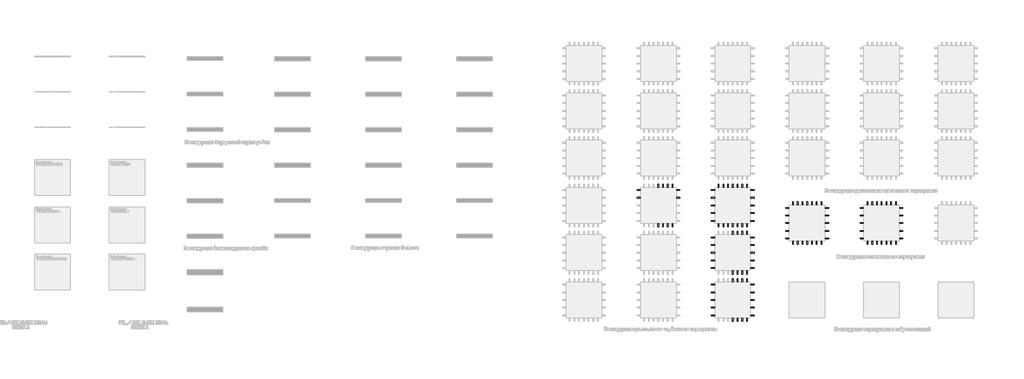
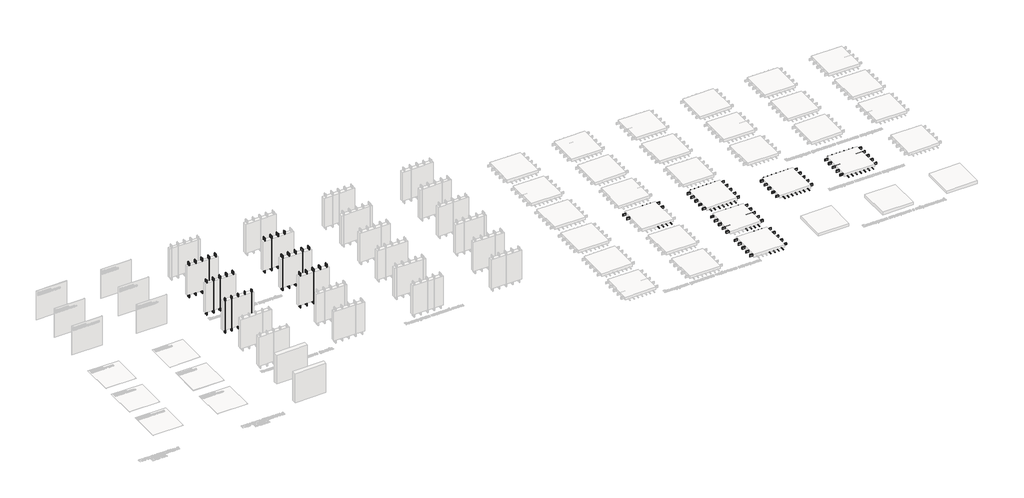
# One storey, part 3 of 42: 167 beams.
"""IFC4 building model written with IfcOpenShell, lengths in millimetres."""

from ifc_helpers import new_model, si_unit, origin, place, context, project, spatial, transform, mapped, element, save
from components import beam_10aa4ee0, beam_54a566a4, beam_d9e12bf5, beam_29c01288, beam_5dea3e8d

model = new_model("IFC4")

# Units and contexts
model_context = context("Model", 3, world=origin())
ifc_project = project(units=[si_unit("LENGTHUNIT", "METRE", prefix="MILLI")], contexts=[model_context])

# Site, building, storey
site = spatial("IfcSite", under=ifc_project)
building = spatial("IfcBuilding", under=site)
storey = spatial("IfcBuildingStorey", under=building, Name="Этаж 01", Elevation=0.0)

# Beams
placement = place(None, origin())
beam_shape = beam_10aa4ee0(model_context)
element("IfcBeam", 1, ObjectType="Деревянный брус : 50х150", at=placement, inside=storey, context=model_context, shape_type="MappedRepresentation", body=[
    mapped(beam_shape, transform((4863.2333353, -27996.8929597, 1500.0), x_axis=(0.0, 0.0, -1.0), y_axis=(1.0, 0.0, 0.0), z_axis=(0.0, -1.0, 0.0))),
])
element("IfcBeam", 2, ObjectType="Деревянный брус : 50х150", at=placement, inside=storey, context=model_context, shape_type="MappedRepresentation", body=[
    mapped(beam_shape, transform((4213.2333353, -27996.8929597, 1500.0), x_axis=(0.0, 0.0, -1.0), y_axis=(1.0, 0.0, 0.0), z_axis=(0.0, -1.0, 0.0))),
])
element("IfcBeam", 3, ObjectType="Деревянный брус : 50х150", at=placement, inside=storey, context=model_context, shape_type="MappedRepresentation", body=[
    mapped(beam_shape, transform((3563.2333353, -27996.8929597, 1500.0), x_axis=(0.0, 0.0, -1.0), y_axis=(1.0, 0.0, 0.0), z_axis=(0.0, -1.0, 0.0))),
])
element("IfcBeam", 4, ObjectType="Деревянный брус : 50х150", at=placement, inside=storey, context=model_context, shape_type="MappedRepresentation", body=[
    mapped(beam_shape, transform((2913.2333353, -27996.8929597, 1500.0), x_axis=(0.0, 0.0, -1.0), y_axis=(1.0, 0.0, 0.0), z_axis=(0.0, -1.0, 0.0))),
])
element("IfcBeam", 5, ObjectType="Деревянный брус : 50х150", at=placement, inside=storey, context=model_context, shape_type="MappedRepresentation", body=[
    mapped(beam_shape, transform((2263.2333353, -27996.8929597, 1500.0), x_axis=(0.0, 0.0, -1.0), y_axis=(1.0, 0.0, 0.0), z_axis=(0.0, -1.0, 0.0))),
])
element("IfcBeam", 6, ObjectType="Деревянный брус : 50х150", at=placement, inside=storey, context=model_context, shape_type="MappedRepresentation", body=[
    mapped(beam_shape, transform((4863.2333353, -24996.8929597, 1500.0), x_axis=(0.0, 0.0, -1.0), y_axis=(1.0, 0.0, 0.0), z_axis=(0.0, -1.0, 0.0))),
])
element("IfcBeam", 7, ObjectType="Деревянный брус : 50х150", at=placement, inside=storey, context=model_context, shape_type="MappedRepresentation", body=[
    mapped(beam_shape, transform((4213.2333353, -24996.8929597, 1500.0), x_axis=(0.0, 0.0, -1.0), y_axis=(1.0, 0.0, 0.0), z_axis=(0.0, -1.0, 0.0))),
])
element("IfcBeam", 8, ObjectType="Деревянный брус : 50х150", at=placement, inside=storey, context=model_context, shape_type="MappedRepresentation", body=[
    mapped(beam_shape, transform((3563.2333353, -24996.8929597, 1500.0), x_axis=(0.0, 0.0, -1.0), y_axis=(1.0, 0.0, 0.0), z_axis=(0.0, -1.0, 0.0))),
])
element("IfcBeam", 9, ObjectType="Деревянный брус : 50х150", at=placement, inside=storey, context=model_context, shape_type="MappedRepresentation", body=[
    mapped(beam_shape, transform((2913.2333353, -24996.8929597, 1500.0), x_axis=(0.0, 0.0, -1.0), y_axis=(1.0, 0.0, 0.0), z_axis=(0.0, -1.0, 0.0))),
])
element("IfcBeam", 10, ObjectType="Деревянный брус : 50х150", at=placement, inside=storey, context=model_context, shape_type="MappedRepresentation", body=[
    mapped(beam_shape, transform((2263.2333353, -24996.8929597, 1500.0), x_axis=(0.0, 0.0, -1.0), y_axis=(1.0, 0.0, 0.0), z_axis=(0.0, -1.0, 0.0))),
])
element("IfcBeam", 11, ObjectType="Деревянный брус : 50х150", at=placement, inside=storey, context=model_context, shape_type="MappedRepresentation", body=[
    mapped(beam_shape, transform((41913.2067679, -33776.7844763, -151.0), x_axis=(-1.0, 0.0, 0.0), y_axis=(0.0, -1.0, 0.0), z_axis=(0.0, 0.0, 1.0))),
])
element("IfcBeam", 12, ObjectType="Деревянный брус : 50х150", at=placement, inside=storey, context=model_context, shape_type="MappedRepresentation", body=[
    mapped(beam_shape, transform((41913.2067679, -33126.7844763, -151.0), x_axis=(-1.0, 0.0, 0.0), y_axis=(0.0, -1.0, 0.0), z_axis=(0.0, 0.0, 1.0))),
])
element("IfcBeam", 13, ObjectType="Деревянный брус : 50х150", at=placement, inside=storey, context=model_context, shape_type="MappedRepresentation", body=[
    mapped(beam_shape, transform((48213.2067679, -43726.7844763, -151.0), x_axis=(-1.0, 0.0, 0.0), y_axis=(0.0, -1.0, 0.0), z_axis=(0.0, 0.0, 1.0))),
])
element("IfcBeam", 14, ObjectType="Деревянный брус : 50х150", at=placement, inside=storey, context=model_context, shape_type="MappedRepresentation", body=[
    mapped(beam_shape, transform((48213.2067679, -43076.7844763, -151.0), x_axis=(-1.0, 0.0, 0.0), y_axis=(0.0, -1.0, 0.0), z_axis=(0.0, 0.0, 1.0))),
])
element("IfcBeam", 15, ObjectType="Деревянный брус : 50х150", at=placement, inside=storey, context=model_context, shape_type="MappedRepresentation", body=[
    mapped(beam_shape, transform((48213.2067679, -42426.7844763, -151.0), x_axis=(-1.0, 0.0, 0.0), y_axis=(0.0, -1.0, 0.0), z_axis=(0.0, 0.0, 1.0))),
])
element("IfcBeam", 16, ObjectType="Деревянный брус : 50х150", at=placement, inside=storey, context=model_context, shape_type="MappedRepresentation", body=[
    mapped(beam_shape, transform((48213.2067679, -41776.7844763, -151.0), x_axis=(-1.0, 0.0, 0.0), y_axis=(0.0, -1.0, 0.0), z_axis=(0.0, 0.0, 1.0))),
])
element("IfcBeam", 17, ObjectType="Деревянный брус : 50х150", at=placement, inside=storey, context=model_context, shape_type="MappedRepresentation", body=[
    mapped(beam_shape, transform((48213.2067679, -41126.7844763, -151.0), x_axis=(-1.0, 0.0, 0.0), y_axis=(0.0, -1.0, 0.0), z_axis=(0.0, 0.0, 1.0))),
])
element("IfcBeam", 18, ObjectType="Деревянный брус : 50х150", at=placement, inside=storey, context=model_context, shape_type="MappedRepresentation", body=[
    mapped(beam_shape, transform((48213.2067679, -39726.7844763, -151.0), x_axis=(-1.0, 0.0, 0.0), y_axis=(0.0, -1.0, 0.0), z_axis=(0.0, 0.0, 1.0))),
])
element("IfcBeam", 19, ObjectType="Деревянный брус : 50х150", at=placement, inside=storey, context=model_context, shape_type="MappedRepresentation", body=[
    mapped(beam_shape, transform((48213.2067679, -39076.7844763, -151.0), x_axis=(-1.0, 0.0, 0.0), y_axis=(0.0, -1.0, 0.0), z_axis=(0.0, 0.0, 1.0))),
])
element("IfcBeam", 20, ObjectType="Деревянный брус : 50х150", at=placement, inside=storey, context=model_context, shape_type="MappedRepresentation", body=[
    mapped(beam_shape, transform((48213.2067679, -38426.7844763, -151.0), x_axis=(-1.0, 0.0, 0.0), y_axis=(0.0, -1.0, 0.0), z_axis=(0.0, 0.0, 1.0))),
])
element("IfcBeam", 21, ObjectType="Деревянный брус : 50х150", at=placement, inside=storey, context=model_context, shape_type="MappedRepresentation", body=[
    mapped(beam_shape, transform((48213.2067679, -37776.7844763, -151.0), x_axis=(-1.0, 0.0, 0.0), y_axis=(0.0, -1.0, 0.0), z_axis=(0.0, 0.0, 1.0))),
])
element("IfcBeam", 22, ObjectType="Деревянный брус : 50х150", at=placement, inside=storey, context=model_context, shape_type="MappedRepresentation", body=[
    mapped(beam_shape, transform((48213.2067679, -37126.7844763, -151.0), x_axis=(-1.0, 0.0, 0.0), y_axis=(0.0, -1.0, 0.0), z_axis=(0.0, 0.0, 1.0))),
])
element("IfcBeam", 23, ObjectType="Деревянный брус : 50х150", at=placement, inside=storey, context=model_context, shape_type="MappedRepresentation", body=[
    mapped(beam_shape, transform((48213.2067679, -35726.7844763, -151.0), x_axis=(-1.0, 0.0, 0.0), y_axis=(0.0, -1.0, 0.0), z_axis=(0.0, 0.0, 1.0))),
])
element("IfcBeam", 24, ObjectType="Деревянный брус : 50х150", at=placement, inside=storey, context=model_context, shape_type="MappedRepresentation", body=[
    mapped(beam_shape, transform((48213.2067679, -35076.7844763, -151.0), x_axis=(-1.0, 0.0, 0.0), y_axis=(0.0, -1.0, 0.0), z_axis=(0.0, 0.0, 1.0))),
])
element("IfcBeam", 25, ObjectType="Деревянный брус : 50х150", at=placement, inside=storey, context=model_context, shape_type="MappedRepresentation", body=[
    mapped(beam_shape, transform((48213.2067679, -34426.7844763, -151.0), x_axis=(-1.0, 0.0, 0.0), y_axis=(0.0, -1.0, 0.0), z_axis=(0.0, 0.0, 1.0))),
])
element("IfcBeam", 26, ObjectType="Деревянный брус : 50х150", at=placement, inside=storey, context=model_context, shape_type="MappedRepresentation", body=[
    mapped(beam_shape, transform((48213.2067679, -33776.7844763, -151.0), x_axis=(-1.0, 0.0, 0.0), y_axis=(0.0, -1.0, 0.0), z_axis=(0.0, 0.0, 1.0))),
])
element("IfcBeam", 27, ObjectType="Деревянный брус : 50х150", at=placement, inside=storey, context=model_context, shape_type="MappedRepresentation", body=[
    mapped(beam_shape, transform((48213.2067679, -33126.7844763, -151.0), x_axis=(-1.0, 0.0, 0.0), y_axis=(0.0, -1.0, 0.0), z_axis=(0.0, 0.0, 1.0))),
])
element("IfcBeam", 28, ObjectType="Деревянный брус : 50х150", at=placement, inside=storey, context=model_context, shape_type="MappedRepresentation", body=[
    mapped(beam_shape, transform((60813.2067679, -37226.7844763, -151.0), x_axis=(-1.0, 0.0, 0.0), y_axis=(0.0, -1.0, 0.0), z_axis=(0.0, 0.0, 1.0))),
])
element("IfcBeam", 29, ObjectType="Деревянный брус : 50х150", at=placement, inside=storey, context=model_context, shape_type="MappedRepresentation", body=[
    mapped(beam_shape, transform((60813.2067679, -36576.7844763, -151.0), x_axis=(-1.0, 0.0, 0.0), y_axis=(0.0, -1.0, 0.0), z_axis=(0.0, 0.0, 1.0))),
])
element("IfcBeam", 30, ObjectType="Деревянный брус : 50х150", at=placement, inside=storey, context=model_context, shape_type="MappedRepresentation", body=[
    mapped(beam_shape, transform((60813.2067679, -35926.7844763, -151.0), x_axis=(-1.0, 0.0, 0.0), y_axis=(0.0, -1.0, 0.0), z_axis=(0.0, 0.0, 1.0))),
])
element("IfcBeam", 31, ObjectType="Деревянный брус : 50х150", at=placement, inside=storey, context=model_context, shape_type="MappedRepresentation", body=[
    mapped(beam_shape, transform((60813.2067679, -35276.7844763, -151.0), x_axis=(-1.0, 0.0, 0.0), y_axis=(0.0, -1.0, 0.0), z_axis=(0.0, 0.0, 1.0))),
])
element("IfcBeam", 32, ObjectType="Деревянный брус : 50х150", at=placement, inside=storey, context=model_context, shape_type="MappedRepresentation", body=[
    mapped(beam_shape, transform((60813.2067679, -34626.7844763, -151.0), x_axis=(-1.0, 0.0, 0.0), y_axis=(0.0, -1.0, 0.0), z_axis=(0.0, 0.0, 1.0))),
])
element("IfcBeam", 33, ObjectType="Деревянный брус : 50х150", at=placement, inside=storey, context=model_context, shape_type="MappedRepresentation", body=[
    mapped(beam_shape, transform((54513.2067679, -37226.7844763, -151.0), x_axis=(-1.0, 0.0, 0.0), y_axis=(0.0, -1.0, 0.0), z_axis=(0.0, 0.0, 1.0))),
])
element("IfcBeam", 34, ObjectType="Деревянный брус : 50х150", at=placement, inside=storey, context=model_context, shape_type="MappedRepresentation", body=[
    mapped(beam_shape, transform((54513.2067679, -36576.7844763, -151.0), x_axis=(-1.0, 0.0, 0.0), y_axis=(0.0, -1.0, 0.0), z_axis=(0.0, 0.0, 1.0))),
])
element("IfcBeam", 35, ObjectType="Деревянный брус : 50х150", at=placement, inside=storey, context=model_context, shape_type="MappedRepresentation", body=[
    mapped(beam_shape, transform((54513.2067679, -35926.7844763, -151.0), x_axis=(-1.0, 0.0, 0.0), y_axis=(0.0, -1.0, 0.0), z_axis=(0.0, 0.0, 1.0))),
])
element("IfcBeam", 36, ObjectType="Деревянный брус : 50х150", at=placement, inside=storey, context=model_context, shape_type="MappedRepresentation", body=[
    mapped(beam_shape, transform((54513.2067679, -35276.7844763, -151.0), x_axis=(-1.0, 0.0, 0.0), y_axis=(0.0, -1.0, 0.0), z_axis=(0.0, 0.0, 1.0))),
])
element("IfcBeam", 37, ObjectType="Деревянный брус : 50х150", at=placement, inside=storey, context=model_context, shape_type="MappedRepresentation", body=[
    mapped(beam_shape, transform((54513.2067679, -34626.7844763, -151.0), x_axis=(-1.0, 0.0, 0.0), y_axis=(0.0, -1.0, 0.0), z_axis=(0.0, 0.0, 1.0))),
])
beam_2_shape = beam_54a566a4(model_context)
element("IfcBeam", 38, ObjectType="Деревянный брус : 50х50", at=placement, inside=storey, context=model_context, shape_type="MappedRepresentation", body=[
    mapped(beam_2_shape, transform((4863.2067679, -28097.7949231, 1500.0), x_axis=(0.0, 0.0, -1.0), y_axis=(-1.0, 0.0, 0.0), z_axis=(0.0, 1.0, 0.0))),
])
element("IfcBeam", 39, ObjectType="Деревянный брус : 50х50", at=placement, inside=storey, context=model_context, shape_type="MappedRepresentation", body=[
    mapped(beam_2_shape, transform((4213.2067679, -28097.7949231, 1500.0), x_axis=(0.0, 0.0, -1.0), y_axis=(-1.0, 0.0, 0.0), z_axis=(0.0, 1.0, 0.0))),
])
element("IfcBeam", 40, ObjectType="Деревянный брус : 50х50", at=placement, inside=storey, context=model_context, shape_type="MappedRepresentation", body=[
    mapped(beam_2_shape, transform((3563.2067679, -28097.7949231, 1500.0), x_axis=(0.0, 0.0, -1.0), y_axis=(-1.0, 0.0, 0.0), z_axis=(0.0, 1.0, 0.0))),
])
element("IfcBeam", 41, ObjectType="Деревянный брус : 50х50", at=placement, inside=storey, context=model_context, shape_type="MappedRepresentation", body=[
    mapped(beam_2_shape, transform((2913.2067679, -28097.7949231, 1500.0), x_axis=(0.0, 0.0, -1.0), y_axis=(-1.0, 0.0, 0.0), z_axis=(0.0, 1.0, 0.0))),
])
element("IfcBeam", 42, ObjectType="Деревянный брус : 50х50", at=placement, inside=storey, context=model_context, shape_type="MappedRepresentation", body=[
    mapped(beam_2_shape, transform((2263.2067679, -28097.7949231, 1500.0), x_axis=(0.0, 0.0, -1.0), y_axis=(-1.0, 0.0, 0.0), z_axis=(0.0, 1.0, 0.0))),
])
element("IfcBeam", 43, ObjectType="Деревянный брус : 50х50", at=placement, inside=storey, context=model_context, shape_type="MappedRepresentation", body=[
    mapped(beam_2_shape, transform((4863.2067679, -27895.8929597, 1500.0), x_axis=(0.0, 0.0, -1.0), y_axis=(1.0, 0.0, 0.0), z_axis=(0.0, -1.0, 0.0))),
])
element("IfcBeam", 44, ObjectType="Деревянный брус : 50х50", at=placement, inside=storey, context=model_context, shape_type="MappedRepresentation", body=[
    mapped(beam_2_shape, transform((4213.2067679, -27895.8929597, 1500.0), x_axis=(0.0, 0.0, -1.0), y_axis=(1.0, 0.0, 0.0), z_axis=(0.0, -1.0, 0.0))),
])
element("IfcBeam", 45, ObjectType="Деревянный брус : 50х50", at=placement, inside=storey, context=model_context, shape_type="MappedRepresentation", body=[
    mapped(beam_2_shape, transform((3563.2067679, -27895.8929597, 1500.0), x_axis=(0.0, 0.0, -1.0), y_axis=(1.0, 0.0, 0.0), z_axis=(0.0, -1.0, 0.0))),
])
element("IfcBeam", 46, ObjectType="Деревянный брус : 50х50", at=placement, inside=storey, context=model_context, shape_type="MappedRepresentation", body=[
    mapped(beam_2_shape, transform((2913.2067679, -27895.8929597, 1500.0), x_axis=(0.0, 0.0, -1.0), y_axis=(1.0, 0.0, 0.0), z_axis=(0.0, -1.0, 0.0))),
])
element("IfcBeam", 47, ObjectType="Деревянный брус : 50х50", at=placement, inside=storey, context=model_context, shape_type="MappedRepresentation", body=[
    mapped(beam_2_shape, transform((2263.2067679, -27895.8929597, 1500.0), x_axis=(0.0, 0.0, -1.0), y_axis=(1.0, 0.0, 0.0), z_axis=(0.0, -1.0, 0.0))),
])
element("IfcBeam", 48, ObjectType="Деревянный брус : 50х50", at=placement, inside=storey, context=model_context, shape_type="MappedRepresentation", body=[
    mapped(beam_2_shape, transform((4863.2067679, -25097.7949231, 1500.0), x_axis=(0.0, 0.0, -1.0), y_axis=(-1.0, 0.0, 0.0), z_axis=(0.0, 1.0, 0.0))),
])
element("IfcBeam", 49, ObjectType="Деревянный брус : 50х50", at=placement, inside=storey, context=model_context, shape_type="MappedRepresentation", body=[
    mapped(beam_2_shape, transform((4213.2067679, -25097.7949231, 1500.0), x_axis=(0.0, 0.0, -1.0), y_axis=(-1.0, 0.0, 0.0), z_axis=(0.0, 1.0, 0.0))),
])
element("IfcBeam", 50, ObjectType="Деревянный брус : 50х50", at=placement, inside=storey, context=model_context, shape_type="MappedRepresentation", body=[
    mapped(beam_2_shape, transform((3563.2067679, -25097.7949231, 1500.0), x_axis=(0.0, 0.0, -1.0), y_axis=(-1.0, 0.0, 0.0), z_axis=(0.0, 1.0, 0.0))),
])
element("IfcBeam", 51, ObjectType="Деревянный брус : 50х50", at=placement, inside=storey, context=model_context, shape_type="MappedRepresentation", body=[
    mapped(beam_2_shape, transform((2913.2067679, -25097.7949231, 1500.0), x_axis=(0.0, 0.0, -1.0), y_axis=(-1.0, 0.0, 0.0), z_axis=(0.0, 1.0, 0.0))),
])
element("IfcBeam", 52, ObjectType="Деревянный брус : 50х50", at=placement, inside=storey, context=model_context, shape_type="MappedRepresentation", body=[
    mapped(beam_2_shape, transform((2263.2067679, -25097.7949231, 1500.0), x_axis=(0.0, 0.0, -1.0), y_axis=(-1.0, 0.0, 0.0), z_axis=(0.0, 1.0, 0.0))),
])
element("IfcBeam", 53, ObjectType="Деревянный брус : 50х50", at=placement, inside=storey, context=model_context, shape_type="MappedRepresentation", body=[
    mapped(beam_2_shape, transform((4863.2067679, -24895.8929597, 1500.0), x_axis=(0.0, 0.0, -1.0), y_axis=(1.0, 0.0, 0.0), z_axis=(0.0, -1.0, 0.0))),
])
element("IfcBeam", 54, ObjectType="Деревянный брус : 50х50", at=placement, inside=storey, context=model_context, shape_type="MappedRepresentation", body=[
    mapped(beam_2_shape, transform((4213.2067679, -24895.8929597, 1500.0), x_axis=(0.0, 0.0, -1.0), y_axis=(1.0, 0.0, 0.0), z_axis=(0.0, -1.0, 0.0))),
])
element("IfcBeam", 55, ObjectType="Деревянный брус : 50х50", at=placement, inside=storey, context=model_context, shape_type="MappedRepresentation", body=[
    mapped(beam_2_shape, transform((3563.2067679, -24895.8929597, 1500.0), x_axis=(0.0, 0.0, -1.0), y_axis=(1.0, 0.0, 0.0), z_axis=(0.0, -1.0, 0.0))),
])
element("IfcBeam", 56, ObjectType="Деревянный брус : 50х50", at=placement, inside=storey, context=model_context, shape_type="MappedRepresentation", body=[
    mapped(beam_2_shape, transform((2913.2067679, -24895.8929597, 1500.0), x_axis=(0.0, 0.0, -1.0), y_axis=(1.0, 0.0, 0.0), z_axis=(0.0, -1.0, 0.0))),
])
element("IfcBeam", 57, ObjectType="Деревянный брус : 50х50", at=placement, inside=storey, context=model_context, shape_type="MappedRepresentation", body=[
    mapped(beam_2_shape, transform((2263.2067679, -24895.8929597, 1500.0), x_axis=(0.0, 0.0, -1.0), y_axis=(1.0, 0.0, 0.0), z_axis=(0.0, -1.0, 0.0))),
])
element("IfcBeam", 58, ObjectType="Деревянный брус : 50х50", at=placement, inside=storey, context=model_context, shape_type="MappedRepresentation", body=[
    mapped(beam_2_shape, transform((4863.2067679, -31173.8929597, 1500.0), x_axis=(0.0, 0.0, -1.0), y_axis=(-1.0, 0.0, 0.0), z_axis=(0.0, 1.0, 0.0))),
])
element("IfcBeam", 59, ObjectType="Деревянный брус : 50х50", at=placement, inside=storey, context=model_context, shape_type="MappedRepresentation", body=[
    mapped(beam_2_shape, transform((4213.2067679, -31173.8929597, 1500.0), x_axis=(0.0, 0.0, -1.0), y_axis=(-1.0, 0.0, 0.0), z_axis=(0.0, 1.0, 0.0))),
])
element("IfcBeam", 60, ObjectType="Деревянный брус : 50х50", at=placement, inside=storey, context=model_context, shape_type="MappedRepresentation", body=[
    mapped(beam_2_shape, transform((3563.2067679, -31173.8929597, 1500.0), x_axis=(0.0, 0.0, -1.0), y_axis=(-1.0, 0.0, 0.0), z_axis=(0.0, 1.0, 0.0))),
])
element("IfcBeam", 61, ObjectType="Деревянный брус : 50х50", at=placement, inside=storey, context=model_context, shape_type="MappedRepresentation", body=[
    mapped(beam_2_shape, transform((2913.2067679, -31173.8929597, 1500.0), x_axis=(0.0, 0.0, -1.0), y_axis=(-1.0, 0.0, 0.0), z_axis=(0.0, 1.0, 0.0))),
])
element("IfcBeam", 62, ObjectType="Деревянный брус : 50х50", at=placement, inside=storey, context=model_context, shape_type="MappedRepresentation", body=[
    mapped(beam_2_shape, transform((2263.2067679, -31173.8929597, 1500.0), x_axis=(0.0, 0.0, -1.0), y_axis=(-1.0, 0.0, 0.0), z_axis=(0.0, 1.0, 0.0))),
])
element("IfcBeam", 63, ObjectType="Деревянный брус : 50х50", at=placement, inside=storey, context=model_context, shape_type="MappedRepresentation", body=[
    mapped(beam_2_shape, transform((12263.2067679, -31135.8929597, 1500.0), x_axis=(0.0, 0.0, -1.0), y_axis=(-1.0, 0.0, 0.0), z_axis=(0.0, 1.0, 0.0))),
])
element("IfcBeam", 64, ObjectType="Деревянный брус : 50х50", at=placement, inside=storey, context=model_context, shape_type="MappedRepresentation", body=[
    mapped(beam_2_shape, transform((11613.2067679, -31135.8929597, 1500.0), x_axis=(0.0, 0.0, -1.0), y_axis=(-1.0, 0.0, 0.0), z_axis=(0.0, 1.0, 0.0))),
])
element("IfcBeam", 65, ObjectType="Деревянный брус : 50х50", at=placement, inside=storey, context=model_context, shape_type="MappedRepresentation", body=[
    mapped(beam_2_shape, transform((10963.2067679, -31135.8929597, 1500.0), x_axis=(0.0, 0.0, -1.0), y_axis=(-1.0, 0.0, 0.0), z_axis=(0.0, 1.0, 0.0))),
])
element("IfcBeam", 66, ObjectType="Деревянный брус : 50х50", at=placement, inside=storey, context=model_context, shape_type="MappedRepresentation", body=[
    mapped(beam_2_shape, transform((10313.2067679, -31135.8929597, 1500.0), x_axis=(0.0, 0.0, -1.0), y_axis=(-1.0, 0.0, 0.0), z_axis=(0.0, 1.0, 0.0))),
])
element("IfcBeam", 67, ObjectType="Деревянный брус : 50х50", at=placement, inside=storey, context=model_context, shape_type="MappedRepresentation", body=[
    mapped(beam_2_shape, transform((9663.2067679, -31135.8929597, 1500.0), x_axis=(0.0, 0.0, -1.0), y_axis=(-1.0, 0.0, 0.0), z_axis=(0.0, 1.0, 0.0))),
])
element("IfcBeam", 68, ObjectType="Деревянный брус : 50х50", at=placement, inside=storey, context=model_context, shape_type="MappedRepresentation", body=[
    mapped(beam_2_shape, transform((12263.2067679, -30883.8929597, 1500.0), x_axis=(0.0, 0.0, -1.0), y_axis=(1.0, 0.0, 0.0), z_axis=(0.0, -1.0, 0.0))),
])
element("IfcBeam", 69, ObjectType="Деревянный брус : 50х50", at=placement, inside=storey, context=model_context, shape_type="MappedRepresentation", body=[
    mapped(beam_2_shape, transform((11613.2067679, -30883.8929597, 1500.0), x_axis=(0.0, 0.0, -1.0), y_axis=(1.0, 0.0, 0.0), z_axis=(0.0, -1.0, 0.0))),
])
element("IfcBeam", 70, ObjectType="Деревянный брус : 50х50", at=placement, inside=storey, context=model_context, shape_type="MappedRepresentation", body=[
    mapped(beam_2_shape, transform((10963.2067679, -30883.8929597, 1500.0), x_axis=(0.0, 0.0, -1.0), y_axis=(1.0, 0.0, 0.0), z_axis=(0.0, -1.0, 0.0))),
])
element("IfcBeam", 71, ObjectType="Деревянный брус : 50х50", at=placement, inside=storey, context=model_context, shape_type="MappedRepresentation", body=[
    mapped(beam_2_shape, transform((10313.2067679, -30883.8929597, 1500.0), x_axis=(0.0, 0.0, -1.0), y_axis=(1.0, 0.0, 0.0), z_axis=(0.0, -1.0, 0.0))),
])
element("IfcBeam", 72, ObjectType="Деревянный брус : 50х50", at=placement, inside=storey, context=model_context, shape_type="MappedRepresentation", body=[
    mapped(beam_2_shape, transform((9663.2067679, -30883.8929597, 1500.0), x_axis=(0.0, 0.0, -1.0), y_axis=(1.0, 0.0, 0.0), z_axis=(0.0, -1.0, 0.0))),
])
element("IfcBeam", 73, ObjectType="Деревянный брус : 50х50", at=placement, inside=storey, context=model_context, shape_type="MappedRepresentation", body=[
    mapped(beam_2_shape, transform((12263.2067679, -28135.8929597, 1500.0), x_axis=(0.0, 0.0, -1.0), y_axis=(-1.0, 0.0, 0.0), z_axis=(0.0, 1.0, 0.0))),
])
element("IfcBeam", 74, ObjectType="Деревянный брус : 50х50", at=placement, inside=storey, context=model_context, shape_type="MappedRepresentation", body=[
    mapped(beam_2_shape, transform((11613.2067679, -28135.8929597, 1500.0), x_axis=(0.0, 0.0, -1.0), y_axis=(-1.0, 0.0, 0.0), z_axis=(0.0, 1.0, 0.0))),
])
element("IfcBeam", 75, ObjectType="Деревянный брус : 50х50", at=placement, inside=storey, context=model_context, shape_type="MappedRepresentation", body=[
    mapped(beam_2_shape, transform((10963.2067679, -28135.8929597, 1500.0), x_axis=(0.0, 0.0, -1.0), y_axis=(-1.0, 0.0, 0.0), z_axis=(0.0, 1.0, 0.0))),
])
element("IfcBeam", 76, ObjectType="Деревянный брус : 50х50", at=placement, inside=storey, context=model_context, shape_type="MappedRepresentation", body=[
    mapped(beam_2_shape, transform((10313.2067679, -28135.8929597, 1500.0), x_axis=(0.0, 0.0, -1.0), y_axis=(-1.0, 0.0, 0.0), z_axis=(0.0, 1.0, 0.0))),
])
element("IfcBeam", 77, ObjectType="Деревянный брус : 50х50", at=placement, inside=storey, context=model_context, shape_type="MappedRepresentation", body=[
    mapped(beam_2_shape, transform((9663.2067679, -28135.8929597, 1500.0), x_axis=(0.0, 0.0, -1.0), y_axis=(-1.0, 0.0, 0.0), z_axis=(0.0, 1.0, 0.0))),
])
element("IfcBeam", 78, ObjectType="Деревянный брус : 50х50", at=placement, inside=storey, context=model_context, shape_type="MappedRepresentation", body=[
    mapped(beam_2_shape, transform((11613.2067679, -27883.8929597, 1500.0), x_axis=(0.0, 0.0, -1.0), y_axis=(1.0, 0.0, 0.0), z_axis=(0.0, -1.0, 0.0))),
])
element("IfcBeam", 79, ObjectType="Деревянный брус : 50х50", at=placement, inside=storey, context=model_context, shape_type="MappedRepresentation", body=[
    mapped(beam_2_shape, transform((10963.2067679, -27883.8929597, 1500.0), x_axis=(0.0, 0.0, -1.0), y_axis=(1.0, 0.0, 0.0), z_axis=(0.0, -1.0, 0.0))),
])
element("IfcBeam", 80, ObjectType="Деревянный брус : 50х50", at=placement, inside=storey, context=model_context, shape_type="MappedRepresentation", body=[
    mapped(beam_2_shape, transform((10313.2067679, -27883.8929597, 1500.0), x_axis=(0.0, 0.0, -1.0), y_axis=(1.0, 0.0, 0.0), z_axis=(0.0, -1.0, 0.0))),
])
element("IfcBeam", 81, ObjectType="Деревянный брус : 50х50", at=placement, inside=storey, context=model_context, shape_type="MappedRepresentation", body=[
    mapped(beam_2_shape, transform((9663.2067679, -27883.8929597, 1500.0), x_axis=(0.0, 0.0, -1.0), y_axis=(1.0, 0.0, 0.0), z_axis=(0.0, -1.0, 0.0))),
])
element("IfcBeam", 82, ObjectType="Деревянный брус : 50х50", at=placement, inside=storey, context=model_context, shape_type="MappedRepresentation", body=[
    mapped(beam_2_shape, transform((11613.2067679, -25135.8929597, 1500.0), x_axis=(0.0, 0.0, -1.0), y_axis=(-1.0, 0.0, 0.0), z_axis=(0.0, 1.0, 0.0))),
])
element("IfcBeam", 83, ObjectType="Деревянный брус : 50х50", at=placement, inside=storey, context=model_context, shape_type="MappedRepresentation", body=[
    mapped(beam_2_shape, transform((10963.2067679, -25135.8929597, 1500.0), x_axis=(0.0, 0.0, -1.0), y_axis=(-1.0, 0.0, 0.0), z_axis=(0.0, 1.0, 0.0))),
])
element("IfcBeam", 84, ObjectType="Деревянный брус : 50х50", at=placement, inside=storey, context=model_context, shape_type="MappedRepresentation", body=[
    mapped(beam_2_shape, transform((10313.2067679, -25135.8929597, 1500.0), x_axis=(0.0, 0.0, -1.0), y_axis=(-1.0, 0.0, 0.0), z_axis=(0.0, 1.0, 0.0))),
])
element("IfcBeam", 85, ObjectType="Деревянный брус : 50х50", at=placement, inside=storey, context=model_context, shape_type="MappedRepresentation", body=[
    mapped(beam_2_shape, transform((9663.2067679, -25135.8929597, 1500.0), x_axis=(0.0, 0.0, -1.0), y_axis=(-1.0, 0.0, 0.0), z_axis=(0.0, 1.0, 0.0))),
])
element("IfcBeam", 86, ObjectType="Деревянный брус : 50х50", at=placement, inside=storey, context=model_context, shape_type="MappedRepresentation", body=[
    mapped(beam_2_shape, transform((10963.2067679, -24883.8929597, 1500.0), x_axis=(0.0, 0.0, -1.0), y_axis=(1.0, 0.0, 0.0), z_axis=(0.0, -1.0, 0.0))),
])
element("IfcBeam", 87, ObjectType="Деревянный брус : 50х50", at=placement, inside=storey, context=model_context, shape_type="MappedRepresentation", body=[
    mapped(beam_2_shape, transform((10313.2067679, -24883.8929597, 1500.0), x_axis=(0.0, 0.0, -1.0), y_axis=(1.0, 0.0, 0.0), z_axis=(0.0, -1.0, 0.0))),
])
element("IfcBeam", 88, ObjectType="Деревянный брус : 50х50", at=placement, inside=storey, context=model_context, shape_type="MappedRepresentation", body=[
    mapped(beam_2_shape, transform((9663.2067679, -24883.8929597, 1500.0), x_axis=(0.0, 0.0, -1.0), y_axis=(1.0, 0.0, 0.0), z_axis=(0.0, -1.0, 0.0))),
])
element("IfcBeam", 89, ObjectType="Деревянный брус : 50х50", at=placement, inside=storey, context=model_context, shape_type="MappedRepresentation", body=[
    mapped(beam_2_shape, transform((41913.2067679, -33776.7844763, -50.0), x_axis=(-1.0, 0.0, 0.0), y_axis=(0.0, -1.0, 0.0), z_axis=(0.0, 0.0, 1.0))),
])
element("IfcBeam", 90, ObjectType="Деревянный брус : 50х50", at=placement, inside=storey, context=model_context, shape_type="MappedRepresentation", body=[
    mapped(beam_2_shape, transform((41913.2067679, -33126.7844763, -50.0), x_axis=(-1.0, 0.0, 0.0), y_axis=(0.0, -1.0, 0.0), z_axis=(0.0, 0.0, 1.0))),
])
element("IfcBeam", 91, ObjectType="Деревянный брус : 50х50", at=placement, inside=storey, context=model_context, shape_type="MappedRepresentation", body=[
    mapped(beam_2_shape, transform((48213.2067679, -43726.7844763, -50.0), x_axis=(-1.0, 0.0, 0.0), y_axis=(0.0, -1.0, 0.0), z_axis=(0.0, 0.0, 1.0))),
])
element("IfcBeam", 92, ObjectType="Деревянный брус : 50х50", at=placement, inside=storey, context=model_context, shape_type="MappedRepresentation", body=[
    mapped(beam_2_shape, transform((48213.2067679, -43076.7844763, -50.0), x_axis=(-1.0, 0.0, 0.0), y_axis=(0.0, -1.0, 0.0), z_axis=(0.0, 0.0, 1.0))),
])
element("IfcBeam", 93, ObjectType="Деревянный брус : 50х50", at=placement, inside=storey, context=model_context, shape_type="MappedRepresentation", body=[
    mapped(beam_2_shape, transform((48213.2067679, -42426.7844763, -50.0), x_axis=(-1.0, 0.0, 0.0), y_axis=(0.0, -1.0, 0.0), z_axis=(0.0, 0.0, 1.0))),
])
element("IfcBeam", 94, ObjectType="Деревянный брус : 50х50", at=placement, inside=storey, context=model_context, shape_type="MappedRepresentation", body=[
    mapped(beam_2_shape, transform((48213.2067679, -41776.7844763, -50.0), x_axis=(-1.0, 0.0, 0.0), y_axis=(0.0, -1.0, 0.0), z_axis=(0.0, 0.0, 1.0))),
])
element("IfcBeam", 95, ObjectType="Деревянный брус : 50х50", at=placement, inside=storey, context=model_context, shape_type="MappedRepresentation", body=[
    mapped(beam_2_shape, transform((48213.2067679, -41126.7844763, -50.0), x_axis=(-1.0, 0.0, 0.0), y_axis=(0.0, -1.0, 0.0), z_axis=(0.0, 0.0, 1.0))),
])
element("IfcBeam", 96, ObjectType="Деревянный брус : 50х50", at=placement, inside=storey, context=model_context, shape_type="MappedRepresentation", body=[
    mapped(beam_2_shape, transform((48213.2067679, -39726.7844763, -50.0), x_axis=(-1.0, 0.0, 0.0), y_axis=(0.0, -1.0, 0.0), z_axis=(0.0, 0.0, 1.0))),
])
element("IfcBeam", 97, ObjectType="Деревянный брус : 50х50", at=placement, inside=storey, context=model_context, shape_type="MappedRepresentation", body=[
    mapped(beam_2_shape, transform((48213.2067679, -39076.7844763, -50.0), x_axis=(-1.0, 0.0, 0.0), y_axis=(0.0, -1.0, 0.0), z_axis=(0.0, 0.0, 1.0))),
])
element("IfcBeam", 98, ObjectType="Деревянный брус : 50х50", at=placement, inside=storey, context=model_context, shape_type="MappedRepresentation", body=[
    mapped(beam_2_shape, transform((48213.2067679, -38426.7844763, -50.0), x_axis=(-1.0, 0.0, 0.0), y_axis=(0.0, -1.0, 0.0), z_axis=(0.0, 0.0, 1.0))),
])
element("IfcBeam", 99, ObjectType="Деревянный брус : 50х50", at=placement, inside=storey, context=model_context, shape_type="MappedRepresentation", body=[
    mapped(beam_2_shape, transform((48213.2067679, -37776.7844763, -50.0), x_axis=(-1.0, 0.0, 0.0), y_axis=(0.0, -1.0, 0.0), z_axis=(0.0, 0.0, 1.0))),
])
element("IfcBeam", 100, ObjectType="Деревянный брус : 50х50", at=placement, inside=storey, context=model_context, shape_type="MappedRepresentation", body=[
    mapped(beam_2_shape, transform((48213.2067679, -37126.7844763, -50.0), x_axis=(-1.0, 0.0, 0.0), y_axis=(0.0, -1.0, 0.0), z_axis=(0.0, 0.0, 1.0))),
])
element("IfcBeam", 101, ObjectType="Деревянный брус : 50х50", at=placement, inside=storey, context=model_context, shape_type="MappedRepresentation", body=[
    mapped(beam_2_shape, transform((48213.2067679, -35726.7844763, -50.0), x_axis=(-1.0, 0.0, 0.0), y_axis=(0.0, -1.0, 0.0), z_axis=(0.0, 0.0, 1.0))),
])
element("IfcBeam", 102, ObjectType="Деревянный брус : 50х50", at=placement, inside=storey, context=model_context, shape_type="MappedRepresentation", body=[
    mapped(beam_2_shape, transform((48213.2067679, -35076.7844763, -50.0), x_axis=(-1.0, 0.0, 0.0), y_axis=(0.0, -1.0, 0.0), z_axis=(0.0, 0.0, 1.0))),
])
element("IfcBeam", 103, ObjectType="Деревянный брус : 50х50", at=placement, inside=storey, context=model_context, shape_type="MappedRepresentation", body=[
    mapped(beam_2_shape, transform((48213.2067679, -34426.7844763, -50.0), x_axis=(-1.0, 0.0, 0.0), y_axis=(0.0, -1.0, 0.0), z_axis=(0.0, 0.0, 1.0))),
])
element("IfcBeam", 104, ObjectType="Деревянный брус : 50х50", at=placement, inside=storey, context=model_context, shape_type="MappedRepresentation", body=[
    mapped(beam_2_shape, transform((48213.2067679, -33776.7844763, -50.0), x_axis=(-1.0, 0.0, 0.0), y_axis=(0.0, -1.0, 0.0), z_axis=(0.0, 0.0, 1.0))),
])
element("IfcBeam", 105, ObjectType="Деревянный брус : 50х50", at=placement, inside=storey, context=model_context, shape_type="MappedRepresentation", body=[
    mapped(beam_2_shape, transform((48213.2067679, -33126.7844763, -50.0), x_axis=(-1.0, 0.0, 0.0), y_axis=(0.0, -1.0, 0.0), z_axis=(0.0, 0.0, 1.0))),
])
element("IfcBeam", 106, ObjectType="Деревянный брус : 50х50", at=placement, inside=storey, context=model_context, shape_type="MappedRepresentation", body=[
    mapped(beam_2_shape, transform((60813.2067679, -37226.7844763, -50.0), x_axis=(-1.0, 0.0, 0.0), y_axis=(0.0, -1.0, 0.0), z_axis=(0.0, 0.0, 1.0))),
])
element("IfcBeam", 107, ObjectType="Деревянный брус : 50х50", at=placement, inside=storey, context=model_context, shape_type="MappedRepresentation", body=[
    mapped(beam_2_shape, transform((60813.2067679, -36576.7844763, -50.0), x_axis=(-1.0, 0.0, 0.0), y_axis=(0.0, -1.0, 0.0), z_axis=(0.0, 0.0, 1.0))),
])
element("IfcBeam", 108, ObjectType="Деревянный брус : 50х50", at=placement, inside=storey, context=model_context, shape_type="MappedRepresentation", body=[
    mapped(beam_2_shape, transform((60813.2067679, -35926.7844763, -50.0), x_axis=(-1.0, 0.0, 0.0), y_axis=(0.0, -1.0, 0.0), z_axis=(0.0, 0.0, 1.0))),
])
element("IfcBeam", 109, ObjectType="Деревянный брус : 50х50", at=placement, inside=storey, context=model_context, shape_type="MappedRepresentation", body=[
    mapped(beam_2_shape, transform((60813.2067679, -35276.7844763, -50.0), x_axis=(-1.0, 0.0, 0.0), y_axis=(0.0, -1.0, 0.0), z_axis=(0.0, 0.0, 1.0))),
])
element("IfcBeam", 110, ObjectType="Деревянный брус : 50х50", at=placement, inside=storey, context=model_context, shape_type="MappedRepresentation", body=[
    mapped(beam_2_shape, transform((60813.2067679, -34626.7844763, -50.0), x_axis=(-1.0, 0.0, 0.0), y_axis=(0.0, -1.0, 0.0), z_axis=(0.0, 0.0, 1.0))),
])
element("IfcBeam", 111, ObjectType="Деревянный брус : 50х50", at=placement, inside=storey, context=model_context, shape_type="MappedRepresentation", body=[
    mapped(beam_2_shape, transform((54513.2067679, -37226.7844763, -50.0), x_axis=(-1.0, 0.0, 0.0), y_axis=(0.0, -1.0, 0.0), z_axis=(0.0, 0.0, 1.0))),
])
element("IfcBeam", 112, ObjectType="Деревянный брус : 50х50", at=placement, inside=storey, context=model_context, shape_type="MappedRepresentation", body=[
    mapped(beam_2_shape, transform((54513.2067679, -36576.7844763, -50.0), x_axis=(-1.0, 0.0, 0.0), y_axis=(0.0, -1.0, 0.0), z_axis=(0.0, 0.0, 1.0))),
])
element("IfcBeam", 113, ObjectType="Деревянный брус : 50х50", at=placement, inside=storey, context=model_context, shape_type="MappedRepresentation", body=[
    mapped(beam_2_shape, transform((54513.2067679, -35926.7844763, -50.0), x_axis=(-1.0, 0.0, 0.0), y_axis=(0.0, -1.0, 0.0), z_axis=(0.0, 0.0, 1.0))),
])
element("IfcBeam", 114, ObjectType="Деревянный брус : 50х50", at=placement, inside=storey, context=model_context, shape_type="MappedRepresentation", body=[
    mapped(beam_2_shape, transform((54513.2067679, -35276.7844763, -50.0), x_axis=(-1.0, 0.0, 0.0), y_axis=(0.0, -1.0, 0.0), z_axis=(0.0, 0.0, 1.0))),
])
element("IfcBeam", 115, ObjectType="Деревянный брус : 50х50", at=placement, inside=storey, context=model_context, shape_type="MappedRepresentation", body=[
    mapped(beam_2_shape, transform((54513.2067679, -34626.7844763, -50.0), x_axis=(-1.0, 0.0, 0.0), y_axis=(0.0, -1.0, 0.0), z_axis=(0.0, 0.0, 1.0))),
])
beam_3_shape = beam_d9e12bf5(model_context)
element("IfcBeam", 116, ObjectType="Деревянный брус : 50х25", at=placement, inside=storey, context=model_context, shape_type="MappedRepresentation", body=[
    mapped(beam_3_shape, transform((41913.2067679, -34426.7844763, -239.5), x_axis=(0.0, 1.0, 0.0), y_axis=(-1.0, 0.0, 0.0), z_axis=(0.0, 0.0, 1.0))),
])
element("IfcBeam", 117, ObjectType="Деревянный брус : 50х25", at=placement, inside=storey, context=model_context, shape_type="MappedRepresentation", body=[
    mapped(beam_3_shape, transform((42313.2067679, -34426.7844763, -239.5), x_axis=(0.0, 1.0, 0.0), y_axis=(-1.0, 0.0, 0.0), z_axis=(0.0, 0.0, 1.0))),
])
element("IfcBeam", 118, ObjectType="Деревянный брус : 50х25", at=placement, inside=storey, context=model_context, shape_type="MappedRepresentation", body=[
    mapped(beam_3_shape, transform((42713.2067679, -34426.7844763, -239.5), x_axis=(0.0, 1.0, 0.0), y_axis=(-1.0, 0.0, 0.0), z_axis=(0.0, 0.0, 1.0))),
])
element("IfcBeam", 119, ObjectType="Деревянный брус : 50х25", at=placement, inside=storey, context=model_context, shape_type="MappedRepresentation", body=[
    mapped(beam_3_shape, transform((43113.2067679, -34426.7844763, -239.5), x_axis=(0.0, 1.0, 0.0), y_axis=(-1.0, 0.0, 0.0), z_axis=(0.0, 0.0, 1.0))),
])
element("IfcBeam", 120, ObjectType="Деревянный брус : 50х25", at=placement, inside=storey, context=model_context, shape_type="MappedRepresentation", body=[
    mapped(beam_3_shape, transform((48213.2067679, -42426.7844763, -239.5), x_axis=(0.0, 1.0, 0.0), y_axis=(-1.0, 0.0, 0.0), z_axis=(0.0, 0.0, 1.0))),
])
element("IfcBeam", 121, ObjectType="Деревянный брус : 50х25", at=placement, inside=storey, context=model_context, shape_type="MappedRepresentation", body=[
    mapped(beam_3_shape, transform((48613.2067679, -42426.7844763, -239.5), x_axis=(0.0, 1.0, 0.0), y_axis=(-1.0, 0.0, 0.0), z_axis=(0.0, 0.0, 1.0))),
])
element("IfcBeam", 122, ObjectType="Деревянный брус : 50х25", at=placement, inside=storey, context=model_context, shape_type="MappedRepresentation", body=[
    mapped(beam_3_shape, transform((49013.2067679, -42426.7844763, -239.5), x_axis=(0.0, 1.0, 0.0), y_axis=(-1.0, 0.0, 0.0), z_axis=(0.0, 0.0, 1.0))),
])
element("IfcBeam", 123, ObjectType="Деревянный брус : 50х25", at=placement, inside=storey, context=model_context, shape_type="MappedRepresentation", body=[
    mapped(beam_3_shape, transform((49413.2067679, -42426.7844763, -239.5), x_axis=(0.0, 1.0, 0.0), y_axis=(-1.0, 0.0, 0.0), z_axis=(0.0, 0.0, 1.0))),
])
element("IfcBeam", 124, ObjectType="Деревянный брус : 50х25", at=placement, inside=storey, context=model_context, shape_type="MappedRepresentation", body=[
    mapped(beam_3_shape, transform((48213.2067679, -38426.7844763, -239.5), x_axis=(0.0, 1.0, 0.0), y_axis=(-1.0, 0.0, 0.0), z_axis=(0.0, 0.0, 1.0))),
])
element("IfcBeam", 125, ObjectType="Деревянный брус : 50х25", at=placement, inside=storey, context=model_context, shape_type="MappedRepresentation", body=[
    mapped(beam_3_shape, transform((48613.2067679, -38426.7844763, -239.5), x_axis=(0.0, 1.0, 0.0), y_axis=(-1.0, 0.0, 0.0), z_axis=(0.0, 0.0, 1.0))),
])
element("IfcBeam", 126, ObjectType="Деревянный брус : 50х25", at=placement, inside=storey, context=model_context, shape_type="MappedRepresentation", body=[
    mapped(beam_3_shape, transform((49013.2067679, -38426.7844763, -239.5), x_axis=(0.0, 1.0, 0.0), y_axis=(-1.0, 0.0, 0.0), z_axis=(0.0, 0.0, 1.0))),
])
element("IfcBeam", 127, ObjectType="Деревянный брус : 50х25", at=placement, inside=storey, context=model_context, shape_type="MappedRepresentation", body=[
    mapped(beam_3_shape, transform((49413.2067679, -38426.7844763, -239.5), x_axis=(0.0, 1.0, 0.0), y_axis=(-1.0, 0.0, 0.0), z_axis=(0.0, 0.0, 1.0))),
])
element("IfcBeam", 128, ObjectType="Деревянный брус : 50х25", at=placement, inside=storey, context=model_context, shape_type="MappedRepresentation", body=[
    mapped(beam_3_shape, transform((47013.2067679, -34426.7844763, -239.5), x_axis=(0.0, 1.0, 0.0), y_axis=(-1.0, 0.0, 0.0), z_axis=(0.0, 0.0, 1.0))),
])
element("IfcBeam", 129, ObjectType="Деревянный брус : 50х25", at=placement, inside=storey, context=model_context, shape_type="MappedRepresentation", body=[
    mapped(beam_3_shape, transform((47413.2067679, -34426.7844763, -239.5), x_axis=(0.0, 1.0, 0.0), y_axis=(-1.0, 0.0, 0.0), z_axis=(0.0, 0.0, 1.0))),
])
element("IfcBeam", 130, ObjectType="Деревянный брус : 50х25", at=placement, inside=storey, context=model_context, shape_type="MappedRepresentation", body=[
    mapped(beam_3_shape, transform((47813.2067679, -34426.7844763, -239.5), x_axis=(0.0, 1.0, 0.0), y_axis=(-1.0, 0.0, 0.0), z_axis=(0.0, 0.0, 1.0))),
])
element("IfcBeam", 131, ObjectType="Деревянный брус : 50х25", at=placement, inside=storey, context=model_context, shape_type="MappedRepresentation", body=[
    mapped(beam_3_shape, transform((48213.2067679, -34426.7844763, -239.5), x_axis=(0.0, 1.0, 0.0), y_axis=(-1.0, 0.0, 0.0), z_axis=(0.0, 0.0, 1.0))),
])
element("IfcBeam", 132, ObjectType="Деревянный брус : 50х25", at=placement, inside=storey, context=model_context, shape_type="MappedRepresentation", body=[
    mapped(beam_3_shape, transform((48613.2067679, -34426.7844763, -239.5), x_axis=(0.0, 1.0, 0.0), y_axis=(-1.0, 0.0, 0.0), z_axis=(0.0, 0.0, 1.0))),
])
element("IfcBeam", 133, ObjectType="Деревянный брус : 50х25", at=placement, inside=storey, context=model_context, shape_type="MappedRepresentation", body=[
    mapped(beam_3_shape, transform((49013.2067679, -34426.7844763, -239.5), x_axis=(0.0, 1.0, 0.0), y_axis=(-1.0, 0.0, 0.0), z_axis=(0.0, 0.0, 1.0))),
])
element("IfcBeam", 134, ObjectType="Деревянный брус : 50х25", at=placement, inside=storey, context=model_context, shape_type="MappedRepresentation", body=[
    mapped(beam_3_shape, transform((49413.2067679, -34426.7844763, -239.5), x_axis=(0.0, 1.0, 0.0), y_axis=(-1.0, 0.0, 0.0), z_axis=(0.0, 0.0, 1.0))),
])
element("IfcBeam", 135, ObjectType="Деревянный брус : 50х25", at=placement, inside=storey, context=model_context, shape_type="MappedRepresentation", body=[
    mapped(beam_3_shape, transform((59613.2067679, -35926.7844763, -239.5), x_axis=(0.0, 1.0, 0.0), y_axis=(-1.0, 0.0, 0.0), z_axis=(0.0, 0.0, 1.0))),
])
element("IfcBeam", 136, ObjectType="Деревянный брус : 50х25", at=placement, inside=storey, context=model_context, shape_type="MappedRepresentation", body=[
    mapped(beam_3_shape, transform((60013.2067679, -35926.7844763, -239.5), x_axis=(0.0, 1.0, 0.0), y_axis=(-1.0, 0.0, 0.0), z_axis=(0.0, 0.0, 1.0))),
])
element("IfcBeam", 137, ObjectType="Деревянный брус : 50х25", at=placement, inside=storey, context=model_context, shape_type="MappedRepresentation", body=[
    mapped(beam_3_shape, transform((60413.2067679, -35926.7844763, -239.5), x_axis=(0.0, 1.0, 0.0), y_axis=(-1.0, 0.0, 0.0), z_axis=(0.0, 0.0, 1.0))),
])
element("IfcBeam", 138, ObjectType="Деревянный брус : 50х25", at=placement, inside=storey, context=model_context, shape_type="MappedRepresentation", body=[
    mapped(beam_3_shape, transform((60813.2067679, -35926.7844763, -239.5), x_axis=(0.0, 1.0, 0.0), y_axis=(-1.0, 0.0, 0.0), z_axis=(0.0, 0.0, 1.0))),
])
element("IfcBeam", 139, ObjectType="Деревянный брус : 50х25", at=placement, inside=storey, context=model_context, shape_type="MappedRepresentation", body=[
    mapped(beam_3_shape, transform((61213.2067679, -35926.7844763, -239.5), x_axis=(0.0, 1.0, 0.0), y_axis=(-1.0, 0.0, 0.0), z_axis=(0.0, 0.0, 1.0))),
])
element("IfcBeam", 140, ObjectType="Деревянный брус : 50х25", at=placement, inside=storey, context=model_context, shape_type="MappedRepresentation", body=[
    mapped(beam_3_shape, transform((61613.2067679, -35926.7844763, -239.5), x_axis=(0.0, 1.0, 0.0), y_axis=(-1.0, 0.0, 0.0), z_axis=(0.0, 0.0, 1.0))),
])
element("IfcBeam", 141, ObjectType="Деревянный брус : 50х25", at=placement, inside=storey, context=model_context, shape_type="MappedRepresentation", body=[
    mapped(beam_3_shape, transform((62013.2067679, -35926.7844763, -239.5), x_axis=(0.0, 1.0, 0.0), y_axis=(-1.0, 0.0, 0.0), z_axis=(0.0, 0.0, 1.0))),
])
element("IfcBeam", 142, ObjectType="Деревянный брус : 50х25", at=placement, inside=storey, context=model_context, shape_type="MappedRepresentation", body=[
    mapped(beam_3_shape, transform((53313.2067679, -35926.7844763, -239.5), x_axis=(0.0, 1.0, 0.0), y_axis=(-1.0, 0.0, 0.0), z_axis=(0.0, 0.0, 1.0))),
])
element("IfcBeam", 143, ObjectType="Деревянный брус : 50х25", at=placement, inside=storey, context=model_context, shape_type="MappedRepresentation", body=[
    mapped(beam_3_shape, transform((53713.2067679, -35926.7844763, -239.5), x_axis=(0.0, 1.0, 0.0), y_axis=(-1.0, 0.0, 0.0), z_axis=(0.0, 0.0, 1.0))),
])
element("IfcBeam", 144, ObjectType="Деревянный брус : 50х25", at=placement, inside=storey, context=model_context, shape_type="MappedRepresentation", body=[
    mapped(beam_3_shape, transform((54113.2067679, -35926.7844763, -239.5), x_axis=(0.0, 1.0, 0.0), y_axis=(-1.0, 0.0, 0.0), z_axis=(0.0, 0.0, 1.0))),
])
element("IfcBeam", 145, ObjectType="Деревянный брус : 50х25", at=placement, inside=storey, context=model_context, shape_type="MappedRepresentation", body=[
    mapped(beam_3_shape, transform((54513.2067679, -35926.7844763, -239.5), x_axis=(0.0, 1.0, 0.0), y_axis=(-1.0, 0.0, 0.0), z_axis=(0.0, 0.0, 1.0))),
])
element("IfcBeam", 146, ObjectType="Деревянный брус : 50х25", at=placement, inside=storey, context=model_context, shape_type="MappedRepresentation", body=[
    mapped(beam_3_shape, transform((54913.2067679, -35926.7844763, -239.5), x_axis=(0.0, 1.0, 0.0), y_axis=(-1.0, 0.0, 0.0), z_axis=(0.0, 0.0, 1.0))),
])
element("IfcBeam", 147, ObjectType="Деревянный брус : 50х25", at=placement, inside=storey, context=model_context, shape_type="MappedRepresentation", body=[
    mapped(beam_3_shape, transform((55313.2067679, -35926.7844763, -239.5), x_axis=(0.0, 1.0, 0.0), y_axis=(-1.0, 0.0, 0.0), z_axis=(0.0, 0.0, 1.0))),
])
element("IfcBeam", 148, ObjectType="Деревянный брус : 50х25", at=placement, inside=storey, context=model_context, shape_type="MappedRepresentation", body=[
    mapped(beam_3_shape, transform((55713.2067679, -35926.7844763, -239.5), x_axis=(0.0, 1.0, 0.0), y_axis=(-1.0, 0.0, 0.0), z_axis=(0.0, 0.0, 1.0))),
])
beam_4_shape = beam_29c01288(model_context)
element("IfcBeam", 149, ObjectType="Деревянный брус : 50х100", at=placement, inside=storey, context=model_context, shape_type="MappedRepresentation", body=[
    mapped(beam_4_shape, transform((4863.2067679, -31096.8929597, 1500.0), x_axis=(0.0, 0.0, -1.0), y_axis=(1.0, 0.0, 0.0), z_axis=(0.0, -1.0, 0.0))),
])
element("IfcBeam", 150, ObjectType="Деревянный брус : 50х100", at=placement, inside=storey, context=model_context, shape_type="MappedRepresentation", body=[
    mapped(beam_4_shape, transform((4213.2067679, -31096.8929597, 1500.0), x_axis=(0.0, 0.0, -1.0), y_axis=(1.0, 0.0, 0.0), z_axis=(0.0, -1.0, 0.0))),
])
element("IfcBeam", 151, ObjectType="Деревянный брус : 50х100", at=placement, inside=storey, context=model_context, shape_type="MappedRepresentation", body=[
    mapped(beam_4_shape, transform((3563.2067679, -31096.8929597, 1500.0), x_axis=(0.0, 0.0, -1.0), y_axis=(1.0, 0.0, 0.0), z_axis=(0.0, -1.0, 0.0))),
])
element("IfcBeam", 152, ObjectType="Деревянный брус : 50х100", at=placement, inside=storey, context=model_context, shape_type="MappedRepresentation", body=[
    mapped(beam_4_shape, transform((2913.2067679, -31096.8929597, 1500.0), x_axis=(0.0, 0.0, -1.0), y_axis=(1.0, 0.0, 0.0), z_axis=(0.0, -1.0, 0.0))),
])
element("IfcBeam", 153, ObjectType="Деревянный брус : 50х100", at=placement, inside=storey, context=model_context, shape_type="MappedRepresentation", body=[
    mapped(beam_4_shape, transform((2263.2067679, -31096.8929597, 1500.0), x_axis=(0.0, 0.0, -1.0), y_axis=(1.0, 0.0, 0.0), z_axis=(0.0, -1.0, 0.0))),
])
beam_5_shape = beam_5dea3e8d(model_context)
element("IfcBeam", 154, ObjectType="Деревянный брус : 50х200", at=placement, inside=storey, context=model_context, shape_type="MappedRepresentation", body=[
    mapped(beam_5_shape, transform((12263.2333353, -31009.8759551, 1500.0), x_axis=(0.0, 0.0, -1.0), y_axis=(1.0, 0.0, 0.0), z_axis=(0.0, -1.0, 0.0))),
])
element("IfcBeam", 155, ObjectType="Деревянный брус : 50х200", at=placement, inside=storey, context=model_context, shape_type="MappedRepresentation", body=[
    mapped(beam_5_shape, transform((11613.2333353, -31009.8759551, 1500.0), x_axis=(0.0, 0.0, -1.0), y_axis=(1.0, 0.0, 0.0), z_axis=(0.0, -1.0, 0.0))),
])
element("IfcBeam", 156, ObjectType="Деревянный брус : 50х200", at=placement, inside=storey, context=model_context, shape_type="MappedRepresentation", body=[
    mapped(beam_5_shape, transform((10963.2333353, -31009.8759551, 1500.0), x_axis=(0.0, 0.0, -1.0), y_axis=(1.0, 0.0, 0.0), z_axis=(0.0, -1.0, 0.0))),
])
element("IfcBeam", 157, ObjectType="Деревянный брус : 50х200", at=placement, inside=storey, context=model_context, shape_type="MappedRepresentation", body=[
    mapped(beam_5_shape, transform((10313.2333353, -31009.8759551, 1500.0), x_axis=(0.0, 0.0, -1.0), y_axis=(1.0, 0.0, 0.0), z_axis=(0.0, -1.0, 0.0))),
])
element("IfcBeam", 158, ObjectType="Деревянный брус : 50х200", at=placement, inside=storey, context=model_context, shape_type="MappedRepresentation", body=[
    mapped(beam_5_shape, transform((9663.2333353, -31009.8759551, 1500.0), x_axis=(0.0, 0.0, -1.0), y_axis=(1.0, 0.0, 0.0), z_axis=(0.0, -1.0, 0.0))),
])
element("IfcBeam", 159, ObjectType="Деревянный брус : 50х200", at=placement, inside=storey, context=model_context, shape_type="MappedRepresentation", body=[
    mapped(beam_5_shape, transform((12263.2333353, -28009.8759551, 1500.0), x_axis=(0.0, 0.0, -1.0), y_axis=(1.0, 0.0, 0.0), z_axis=(0.0, -1.0, 0.0))),
])
element("IfcBeam", 160, ObjectType="Деревянный брус : 50х200", at=placement, inside=storey, context=model_context, shape_type="MappedRepresentation", body=[
    mapped(beam_5_shape, transform((11613.2333353, -28009.8759551, 1500.0), x_axis=(0.0, 0.0, -1.0), y_axis=(1.0, 0.0, 0.0), z_axis=(0.0, -1.0, 0.0))),
])
element("IfcBeam", 161, ObjectType="Деревянный брус : 50х200", at=placement, inside=storey, context=model_context, shape_type="MappedRepresentation", body=[
    mapped(beam_5_shape, transform((10963.2333353, -28009.8759551, 1500.0), x_axis=(0.0, 0.0, -1.0), y_axis=(1.0, 0.0, 0.0), z_axis=(0.0, -1.0, 0.0))),
])
element("IfcBeam", 162, ObjectType="Деревянный брус : 50х200", at=placement, inside=storey, context=model_context, shape_type="MappedRepresentation", body=[
    mapped(beam_5_shape, transform((10313.2333353, -28009.8759551, 1500.0), x_axis=(0.0, 0.0, -1.0), y_axis=(1.0, 0.0, 0.0), z_axis=(0.0, -1.0, 0.0))),
])
element("IfcBeam", 163, ObjectType="Деревянный брус : 50х200", at=placement, inside=storey, context=model_context, shape_type="MappedRepresentation", body=[
    mapped(beam_5_shape, transform((9663.2333353, -28009.8759551, 1500.0), x_axis=(0.0, 0.0, -1.0), y_axis=(1.0, 0.0, 0.0), z_axis=(0.0, -1.0, 0.0))),
])
element("IfcBeam", 164, ObjectType="Деревянный брус : 50х200", at=placement, inside=storey, context=model_context, shape_type="MappedRepresentation", body=[
    mapped(beam_5_shape, transform((11613.2333353, -25009.8759551, 1500.0), x_axis=(0.0, 0.0, -1.0), y_axis=(1.0, 0.0, 0.0), z_axis=(0.0, -1.0, 0.0))),
])
element("IfcBeam", 165, ObjectType="Деревянный брус : 50х200", at=placement, inside=storey, context=model_context, shape_type="MappedRepresentation", body=[
    mapped(beam_5_shape, transform((10963.2333353, -25009.8759551, 1500.0), x_axis=(0.0, 0.0, -1.0), y_axis=(1.0, 0.0, 0.0), z_axis=(0.0, -1.0, 0.0))),
])
element("IfcBeam", 166, ObjectType="Деревянный брус : 50х200", at=placement, inside=storey, context=model_context, shape_type="MappedRepresentation", body=[
    mapped(beam_5_shape, transform((10313.2333353, -25009.8759551, 1500.0), x_axis=(0.0, 0.0, -1.0), y_axis=(1.0, 0.0, 0.0), z_axis=(0.0, -1.0, 0.0))),
])
element("IfcBeam", 167, ObjectType="Деревянный брус : 50х200", at=placement, inside=storey, context=model_context, shape_type="MappedRepresentation", body=[
    mapped(beam_5_shape, transform((9663.2333353, -25009.8759551, 1500.0), x_axis=(0.0, 0.0, -1.0), y_axis=(1.0, 0.0, 0.0), z_axis=(0.0, -1.0, 0.0))),
])

save(model, "model.ifc")
